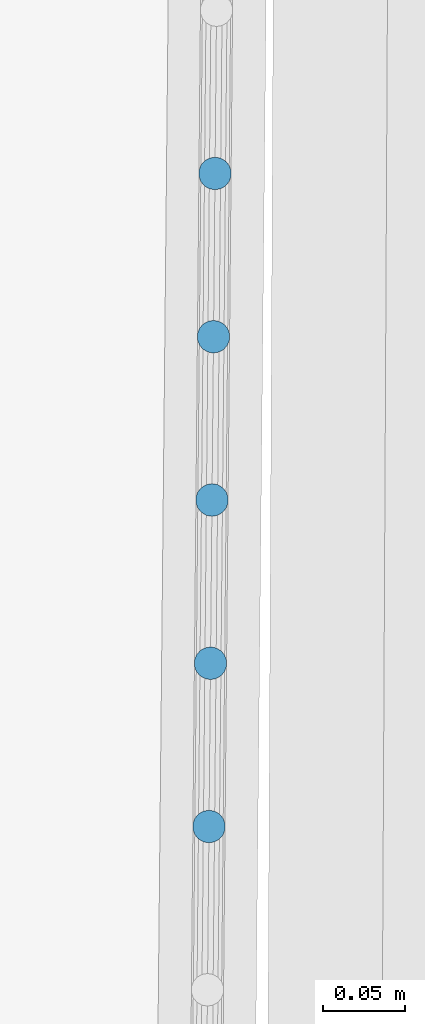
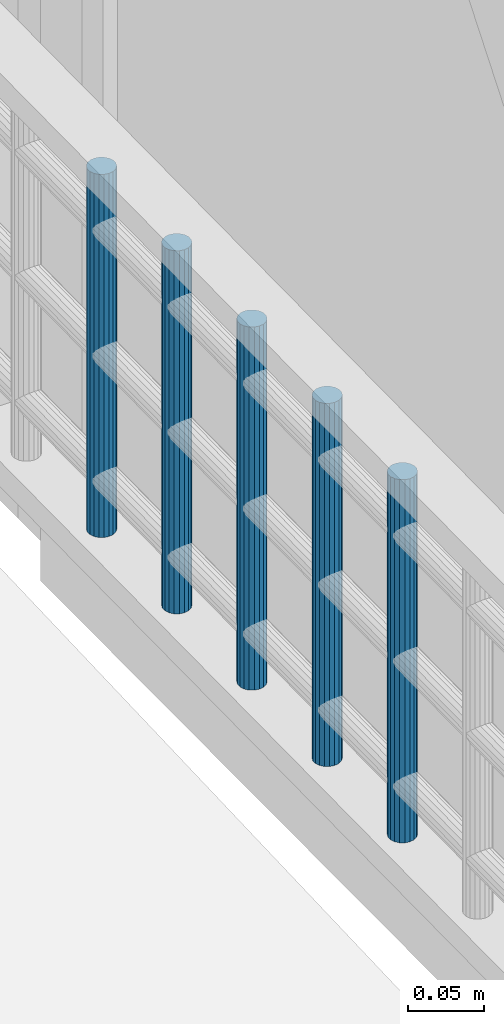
# One storey, part 34 of 97: 5 members, 1 element without a shape of its own.
"""IFC2X3 building model written with IfcOpenShell, lengths in centimetres."""

from ifc_helpers import new_model, entity, si_unit, converted_unit, direction, frame, origin, origin_with_axes, place, context, subcontext, project, spatial, faceted_brep, material, type_object, element, aggregate, save


model = new_model("IFC2X3")

# Units and contexts
model_context = context("Model", 3, precision=0.0001, world=origin(), true_north=direction((0.225632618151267, 0.974212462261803, 0.0)))
body_context = subcontext(model_context, "Body", "Model", "MODEL_VIEW")
ifc_project = project(units=[si_unit("LENGTHUNIT", "METRE", prefix="CENTI"), si_unit("AREAUNIT", "SQUARE_METRE", prefix="CENTI"), si_unit("VOLUMEUNIT", "CUBIC_METRE", prefix="CENTI"), converted_unit("PLANEANGLEUNIT", "DEGREE", entity("IfcRatioMeasure", 0.0174532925), si_unit("PLANEANGLEUNIT", "RADIAN"), dimensions=[0, 0, 0, 0, 0, 0, 0])], contexts=[model_context])

# Site, building, storey
site_placement = place(None, origin_with_axes())
site = spatial("IfcSite", under=ifc_project, at=site_placement, Name="Default Site", CompositionType="ELEMENT")
building_placement = place(site_placement, origin_with_axes())
building = spatial("IfcBuilding", under=site, at=building_placement, Name="Default Building", CompositionType="ELEMENT")
storey_placement = place(building_placement, origin_with_axes())
storey = spatial("IfcBuildingStorey", under=building, at=storey_placement, Name="Rez-de-chaussée", CompositionType="ELEMENT", Elevation=0.0)

# Assembly, members
building_element_proxy_type = type_object("IfcBuildingElementProxyType", Name="Type Object", PredefinedType="NOTDEFINED")
assembly_placement = place(storey_placement, frame((1065.74726462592, -36.1039081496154, 11.9999999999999), z_axis=(0.0, 0.0, 1.0), x_axis=(-0.00922380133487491, -0.999957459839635, 0.0)))
assembly = element("IfcElementAssembly", 1, at=assembly_placement, inside=storey, type_object=building_element_proxy_type, Name="Panneau 1702030", ObjectType="Precast panel", PredefinedType="USERDEFINED")
ifc_material = material(Name="Aluminium satiné")
member_1_placement = place(assembly_placement, frame((18.4396922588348, 0.342020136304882, 31.0000002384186), z_axis=(0.0, 0.0, 1.0), x_axis=(0.499998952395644, -0.866026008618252, 0.0)))
member_1 = element("IfcMember", 2, at=member_1_placement, material=ifc_material, Name="4294967110", context=body_context, shape_type="Brep", body=[
    faceted_brep([(-1.41553435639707e-13, -4.71844785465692e-14, -5.55111512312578e-15), (-0.347296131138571, -3.60822483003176e-14, -5.55111512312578e-15), (-0.673647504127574, -0.118782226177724, -5.55111512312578e-15), (-0.939691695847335, -0.342020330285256, -5.55111512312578e-15), (-1.11333977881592, -0.642788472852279, -5.55111512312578e-15), (-1.17364672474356, -0.984808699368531, -5.55111512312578e-15), (-1.11333938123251, -1.32682953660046, -5.55111512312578e-15), (-0.939690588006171, -1.62759638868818, -5.55111512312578e-15), (-0.673645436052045, -1.85083308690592, -5.55111512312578e-15), (-0.34729392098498, -1.96961580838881, -5.55111512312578e-15), (2.21015345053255e-06, -1.96961580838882, -5.55111512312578e-15), (0.326354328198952, -1.85083229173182, -5.55111512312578e-15), (0.592398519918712, -1.62759418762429, -5.55111512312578e-15), (0.766046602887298, -1.32682604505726, -5.55111512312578e-15), (0.826353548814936, -0.98480581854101, -5.55111512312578e-15), (0.766045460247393, -0.642786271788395, -5.55111512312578e-15), (0.59239666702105, -0.342019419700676, -5.55111512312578e-15), (0.326352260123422, -0.118781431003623, -5.55111512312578e-15), (0.326352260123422, -0.118781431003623, -29.0000002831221), (0.59239666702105, -0.342019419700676, -29.0000002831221), (0.766045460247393, -0.642786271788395, -29.0000002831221), (0.826353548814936, -0.98480581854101, -29.0000002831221), (0.766046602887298, -1.32682604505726, -29.0000002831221), (0.592398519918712, -1.62759418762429, -29.0000002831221), (0.326354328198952, -1.85083229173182, -29.0000002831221), (2.21015345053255e-06, -1.96961580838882, -29.0000002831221), (-0.34729392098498, -1.96961580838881, -29.0000002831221), (-0.673645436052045, -1.85083308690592, -29.0000002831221), (-0.939690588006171, -1.62759638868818, -29.0000002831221), (-1.11333938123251, -1.32682953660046, -29.0000002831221), (-1.17364672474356, -0.984808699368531, -29.0000002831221), (-1.11333977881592, -0.642788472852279, -29.0000002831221), (-0.939691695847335, -0.342020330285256, -29.0000002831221), (-0.673647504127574, -0.118782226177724, -29.0000002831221), (-0.347296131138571, -3.60822483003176e-14, -29.0000002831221), (-1.41553435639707e-13, -4.71844785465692e-14, -29.0000002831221), (0.592397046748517, -0.342018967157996, -5.55111517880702e-15), (0.592397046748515, -0.342018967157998, -29.0000002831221), (0.32635226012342, -0.118781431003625, -29.0000002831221), (0.766045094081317, -0.642786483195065, -5.55111508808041e-15), (0.766045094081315, -0.642786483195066, -29.0000002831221), (0.592396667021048, -0.342019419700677, -29.0000002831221), (0.826353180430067, -0.98480588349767, -5.55111510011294e-15), (0.826353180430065, -0.98480588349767, -29.0000002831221), (0.766045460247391, -0.642786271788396, -29.0000002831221), (0.7660465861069, -1.32682604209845, -5.55111512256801e-15), (0.766046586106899, -1.32682604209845, -29.0000002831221), (0.826353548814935, -0.984805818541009, -29.0000002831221), (0.326354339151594, -1.85083230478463, -5.55111512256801e-15), (0.326354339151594, -1.85083230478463, -29.0000002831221), (2.01049500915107e-06, -1.96961525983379, -5.55111512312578e-15), (2.01049500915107e-06, -1.96961525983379, -29.0000002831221), (-0.347293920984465, -1.96961623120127, -5.55111508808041e-15), (-0.347293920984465, -1.96961623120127, -29.0000002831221), (-0.673645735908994, -1.85083391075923, -5.55111504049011e-15), (-0.673645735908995, -1.85083391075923, -29.0000002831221), (-0.347293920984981, -1.96961580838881, -29.0000002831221), (-0.939690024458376, -1.62759571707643, -5.55111520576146e-15), (-0.939690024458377, -1.62759571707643, -29.0000002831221), (-0.673645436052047, -1.85083308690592, -29.0000002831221), (-1.11333901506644, -1.32682932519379, -5.55111512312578e-15), (-1.11333901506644, -1.32682932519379, -29.0000002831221), (-1.17364729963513, -0.984808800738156, -5.55111508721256e-15), (-1.17364729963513, -0.984808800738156, -29.0000002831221), (-1.11333976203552, -0.642788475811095, -5.55111512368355e-15), (-1.11333976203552, -0.642788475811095, -29.0000002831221), (-1.17364672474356, -0.98480869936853, -29.0000002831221), (-0.673647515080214, -0.118782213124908, -5.55111512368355e-15), (-0.673647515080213, -0.118782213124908, -29.0000002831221), (-0.939691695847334, -0.342020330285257, -29.0000002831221), (-0.347296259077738, 3.51508639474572e-07, -5.55111514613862e-15), (-0.347296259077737, 3.51508637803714e-07, -29.0000002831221), (-0.673647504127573, -0.118782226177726, -29.0000002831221), (-6.56302531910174e-13, 4.22812410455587e-07, -5.55111515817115e-15), (-6.56302528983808e-13, 4.22812408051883e-07, -29.0000002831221), (-0.347296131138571, -3.84859516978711e-14, -29.0000002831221), (0.326352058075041, -0.118781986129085, -5.55111506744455e-15), (0.32635205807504, -0.118781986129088, -29.0000002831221), (-1.42488307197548e-13, -4.97530267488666e-14, -29.0000002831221)], [[[0, 1, 2, 3, 4, 5, 6, 7, 8, 9, 10, 11, 12, 13, 14, 15, 16, 17]], [[18, 19, 20, 21, 22, 23, 24, 25, 26, 27, 28, 29, 30, 31, 32, 33, 34, 35]], [[17, 36, 37, 38]], [[16, 39, 40, 41]], [[15, 42, 43, 44]], [[14, 45, 46, 47]], [[13, 12, 23, 22]], [[12, 48, 49, 23]], [[11, 50, 51, 24]], [[10, 52, 53, 25]], [[9, 54, 55, 56]], [[8, 57, 58, 59]], [[7, 60, 61, 28]], [[6, 62, 63, 29]], [[5, 64, 65, 66]], [[4, 3, 32, 31]], [[3, 67, 68, 69]], [[2, 70, 71, 72]], [[1, 73, 74, 75]], [[0, 76, 77, 78]]]),
])
member_2_placement = place(assembly_placement, frame((28.4396916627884, 0.342020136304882, 31.0000002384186), z_axis=(0.0, 0.0, 1.0), x_axis=(0.499995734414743, -0.866027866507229, 0.0)))
member_2 = element("IfcMember", 3, at=member_2_placement, material=ifc_material, Name="4294967109", context=body_context, shape_type="Brep", body=[
    faceted_brep([(-2.85882428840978e-13, 7.49400541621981e-14, 5.55111512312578e-15), (-0.347295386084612, 2.77555756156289e-15, 5.55111512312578e-15), (-0.673647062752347, -0.118784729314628, 5.55111512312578e-15), (-0.93969117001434, -0.342025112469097, 5.55111512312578e-15), (-1.11333739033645, -0.642792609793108, 5.55111512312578e-15), (-1.173642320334, -0.984811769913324, 5.55111512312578e-15), (-1.11333370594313, -1.32683238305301, 5.55111512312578e-15), (-0.939684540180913, -1.62759988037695, 5.55111512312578e-15), (-0.673639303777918, -1.85083688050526, 5.55111512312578e-15), (-0.347286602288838, -1.96961709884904, 5.55111512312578e-15), (1.02738988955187e-05, -1.9696145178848, 5.55111512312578e-15), (0.326361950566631, -1.85082978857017, 5.55111512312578e-15), (0.592404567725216, -1.62759198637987, 5.55111512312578e-15), (0.766050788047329, -1.32682448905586, 5.55111512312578e-15), (0.826357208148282, -0.984802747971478, 5.55111512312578e-15), (0.766048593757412, -0.642782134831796, 5.55111512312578e-15), (0.592397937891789, -0.342017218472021, 5.55111512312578e-15), (0.326352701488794, -0.118780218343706, 5.55111512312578e-15), (0.326352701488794, -0.118780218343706, -29.0000002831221), (0.592397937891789, -0.342017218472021, -29.0000002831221), (0.766048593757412, -0.642782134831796, -29.0000002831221), (0.826357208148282, -0.984802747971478, -29.0000002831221), (0.766050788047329, -1.32682448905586, -29.0000002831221), (0.592404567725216, -1.62759198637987, -29.0000002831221), (0.326361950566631, -1.85082978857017, -29.0000002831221), (1.02738988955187e-05, -1.9696145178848, -29.0000002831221), (-0.347286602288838, -1.96961709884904, -29.0000002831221), (-0.673639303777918, -1.85083688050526, -29.0000002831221), (-0.939684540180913, -1.62759988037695, -29.0000002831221), (-1.11333370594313, -1.32683238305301, -29.0000002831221), (-1.173642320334, -0.984811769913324, -29.0000002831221), (-1.11333739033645, -0.642792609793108, -29.0000002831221), (-0.93969117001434, -0.342025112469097, -29.0000002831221), (-0.673647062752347, -0.118784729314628, -29.0000002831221), (-0.347295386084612, 2.77555756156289e-15, -29.0000002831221), (-2.85882428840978e-13, 7.49400541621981e-14, -29.0000002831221), (0.592398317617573, -0.342016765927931, 5.55111512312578e-15), (0.592398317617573, -0.342016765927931, -29.0000002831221), (0.766047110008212, -0.642782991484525, 5.55111512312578e-15), (0.766047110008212, -0.642782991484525, -29.0000002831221), (0.826357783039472, -0.984802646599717, 5.55111512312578e-15), (0.826357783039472, -0.984802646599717, -29.0000002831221), (0.766051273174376, -1.32682457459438, 5.55111512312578e-15), (0.766051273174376, -1.32682457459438, -29.0000002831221), (0.326362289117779, -1.85083019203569, 5.55111512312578e-15), (0.326362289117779, -1.85083019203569, -29.0000002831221), (1.00742384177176e-05, -1.96961396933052, 5.55111512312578e-15), (1.00742384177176e-05, -1.96961396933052, -29.0000002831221), (-0.347286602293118, -1.96961623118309, 5.55111512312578e-15), (-0.347286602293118, -1.96961623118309, -29.0000002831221), (-0.6736391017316, -1.85083632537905, 5.55111512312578e-15), (-0.6736391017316, -1.85083632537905, -29.0000002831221), (-0.939684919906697, -1.62760033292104, 5.55111512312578e-15), (-0.939684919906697, -1.62760033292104, -29.0000002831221), (-1.11333445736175, -1.32683281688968, 5.55111512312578e-15), (-1.11333445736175, -1.32683281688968, -29.0000002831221), (-1.17364289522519, -0.984811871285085, 5.55111512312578e-15), (-1.17364289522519, -0.984811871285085, -29.0000002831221), (-1.11333687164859, -0.642792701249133, 5.55111512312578e-15), (-1.11333687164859, -0.642792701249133, -29.0000002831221), (-0.93969117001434, -0.342025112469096, 5.55111512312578e-15), (-0.93969117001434, -0.342025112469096, -29.0000002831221), (-0.673646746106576, -0.118785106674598, 5.55111512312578e-15), (-0.673646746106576, -0.118785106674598, -29.0000002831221), (-0.347295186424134, -5.48554283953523e-07, 5.55111512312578e-15), (-0.347295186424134, -5.48554283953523e-07, -29.0000002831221), (-8.73795471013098e-12, 1.71329093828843e-06, 5.55111512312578e-15), (-8.73795471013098e-12, 1.71329093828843e-06, -29.0000002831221), (0.326352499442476, -0.118780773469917, 5.55111512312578e-15), (0.326352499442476, -0.118780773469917, -29.0000002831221)], [[[0, 1, 2, 3, 4, 5, 6, 7, 8, 9, 10, 11, 12, 13, 14, 15, 16, 17]], [[18, 19, 20, 21, 22, 23, 24, 25, 26, 27, 28, 29, 30, 31, 32, 33, 34, 35]], [[17, 36, 37, 18]], [[16, 38, 39, 19]], [[15, 40, 41, 20]], [[14, 42, 43, 21]], [[13, 12, 23, 22]], [[12, 44, 45, 23]], [[11, 46, 47, 24]], [[10, 48, 49, 25]], [[9, 50, 51, 26]], [[8, 52, 53, 27]], [[7, 54, 55, 28]], [[6, 56, 57, 29]], [[5, 58, 59, 30]], [[4, 60, 61, 31]], [[3, 62, 63, 32]], [[2, 64, 65, 33]], [[1, 66, 67, 34]], [[0, 68, 69, 35]]]),
])
member_3_placement = place(assembly_placement, frame((38.4396940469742, 0.342020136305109, 31.0000002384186), z_axis=(0.0, 0.0, 1.0), x_axis=(0.500002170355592, -0.866024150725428, 0.0)))
member_3 = element("IfcMember", 4, at=member_3_placement, material=ifc_material, Name="4294967108", context=body_context, shape_type="Brep", body=[
    faceted_brep([(2.22044604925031e-13, -6.66133814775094e-14, -5.55111512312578e-15), (-0.347296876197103, -7.21644966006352e-14, -5.55111512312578e-15), (-0.673649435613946, -0.118782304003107, -5.55111512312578e-15), (-0.939693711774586, -0.342018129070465, -5.55111512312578e-15), (-1.11334365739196, -0.642786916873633, -5.55111512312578e-15), (-1.17365112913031, -0.984805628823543, -5.55111512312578e-15), (-1.11334505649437, -1.32682669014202, -5.55111512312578e-15), (-0.939698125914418, -1.62759547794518, -5.55111512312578e-15), (-0.673653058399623, -1.85083187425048, -5.55111512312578e-15), (-0.347302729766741, -1.96961709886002, -5.55111512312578e-15), (-5.8535694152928e-06, -1.96961709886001, -5.55111512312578e-15), (0.326346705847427, -1.85083479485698, -5.55111512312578e-15), (0.592390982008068, -1.62759896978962, -5.55111512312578e-15), (0.766040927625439, -1.32683018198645, -5.55111512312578e-15), (0.826348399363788, -0.98481147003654, -5.55111512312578e-15), (0.766042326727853, -0.642790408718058, -5.55111512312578e-15), (0.592395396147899, -0.342021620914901, -5.55111512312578e-15), (0.326350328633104, -0.118785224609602, -5.55111512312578e-15), (0.326350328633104, -0.118785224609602, -29.0000002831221), (0.592395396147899, -0.342021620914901, -29.0000002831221), (0.766042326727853, -0.642790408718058, -29.0000002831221), (0.826348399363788, -0.98481147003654, -29.0000002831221), (0.766040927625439, -1.32683018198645, -29.0000002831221), (0.592390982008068, -1.62759896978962, -29.0000002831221), (0.326346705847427, -1.85083479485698, -29.0000002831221), (-5.8535694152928e-06, -1.96961709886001, -29.0000002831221), (-0.347302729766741, -1.96961709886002, -29.0000002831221), (-0.673653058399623, -1.85083187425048, -29.0000002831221), (-0.939698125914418, -1.62759547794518, -29.0000002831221), (-1.11334505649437, -1.32682669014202, -29.0000002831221), (-1.17365112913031, -0.984805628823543, -29.0000002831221), (-1.11334365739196, -0.642786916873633, -29.0000002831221), (-0.939693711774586, -0.342018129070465, -29.0000002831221), (-0.673649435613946, -0.118782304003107, -29.0000002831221), (-0.347296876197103, -7.21644966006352e-14, -29.0000002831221), (2.22044604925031e-13, -6.66133814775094e-14, -29.0000002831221), (0.592393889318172, -0.342023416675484, -5.55111512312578e-15), (0.592393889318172, -0.342023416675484, -29.0000002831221), (0.766043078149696, -0.642789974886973, -5.55111512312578e-15), (0.766043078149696, -0.642789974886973, -29.0000002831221), (0.826348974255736, -0.98481136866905, -5.55111512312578e-15), (0.826348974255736, -0.98481136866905, -29.0000002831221), (0.766040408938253, -1.32683009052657, -5.55111512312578e-15), (0.766040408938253, -1.32683009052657, -29.0000002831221), (0.592390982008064, -1.62759896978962, -5.55111512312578e-15), (0.592390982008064, -1.62759896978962, -29.0000002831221), (0.32634704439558, -1.85083519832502, -5.55111512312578e-15), (0.32634704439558, -1.85083519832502, -29.0000002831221), (-6.05322581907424e-06, -1.96961655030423, -5.55111512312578e-15), (-6.05322581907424e-06, -1.96961655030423, -29.0000002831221), (-0.347302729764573, -1.96961623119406, -5.55111512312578e-15), (-0.347302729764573, -1.96961623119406, -29.0000002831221), (-0.673653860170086, -1.85083407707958, -5.55111512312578e-15), (-0.673653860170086, -1.85083407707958, -29.0000002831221), (-0.93969661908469, -1.6275936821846, -5.55111512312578e-15), (-0.93969661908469, -1.6275936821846, -29.0000002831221), (-1.11334580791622, -1.32682712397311, -5.55111512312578e-15), (-1.11334580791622, -1.32682712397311, -29.0000002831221), (-1.17365170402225, -0.984805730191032, -5.55111512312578e-15), (-1.17365170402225, -0.984805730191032, -29.0000002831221), (-1.11334313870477, -0.642787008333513, -5.55111512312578e-15), (-1.11334313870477, -0.642787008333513, -29.0000002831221), (-0.939693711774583, -0.342018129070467, -5.55111512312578e-15), (-0.939693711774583, -0.342018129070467, -29.0000002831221), (-0.673649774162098, -0.118781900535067, -5.55111512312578e-15), (-0.673649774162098, -0.118781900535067, -29.0000002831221), (-0.3472966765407, -5.48555849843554e-07, -5.55111512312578e-15), (-0.3472966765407, -5.48555849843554e-07, -29.0000002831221), (-1.9456806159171e-12, -8.6766601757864e-07, -5.55111512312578e-15), (-1.9456806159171e-12, -8.6766601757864e-07, -29.0000002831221), (0.326351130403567, -0.118783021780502, -5.55111512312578e-15), (0.326351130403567, -0.118783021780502, -29.0000002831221)], [[[0, 1, 2, 3, 4, 5, 6, 7, 8, 9, 10, 11, 12, 13, 14, 15, 16, 17]], [[18, 19, 20, 21, 22, 23, 24, 25, 26, 27, 28, 29, 30, 31, 32, 33, 34, 35]], [[17, 36, 37, 18]], [[16, 38, 39, 19]], [[15, 40, 41, 20]], [[14, 42, 43, 21]], [[13, 44, 45, 22]], [[12, 46, 47, 23]], [[11, 48, 49, 24]], [[10, 50, 51, 25]], [[9, 52, 53, 26]], [[8, 54, 55, 27]], [[7, 56, 57, 28]], [[6, 58, 59, 29]], [[5, 60, 61, 30]], [[4, 62, 63, 31]], [[3, 64, 65, 32]], [[2, 66, 67, 33]], [[1, 68, 69, 34]], [[0, 70, 71, 35]]]),
])
member_4_placement = place(assembly_placement, frame((48.4396934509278, 0.342020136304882, 31.0000002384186), z_axis=(0.0, 0.0, 1.0), x_axis=(0.500002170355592, -0.866024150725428, 0.0)))
member_4 = element("IfcMember", 5, at=member_4_placement, material=ifc_material, Name="4294967107", context=body_context, shape_type="Brep", body=[
    faceted_brep([(3.3584246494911e-13, -1.16573417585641e-13, -5.55111512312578e-15), (-0.34729687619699, -1.27675647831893e-13, -5.55111512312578e-15), (-0.67364943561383, -0.118782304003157, -5.55111512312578e-15), (-0.93969371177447, -0.34201812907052, -5.55111512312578e-15), (-1.11334216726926, -0.642784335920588, -5.55111512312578e-15), (-1.17365112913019, -0.984805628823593, -5.55111512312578e-15), (-1.11334505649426, -1.32682669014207, -5.55111512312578e-15), (-0.939696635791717, -1.62759289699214, -5.55111512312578e-15), (-0.673653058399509, -1.85083187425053, -5.55111512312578e-15), (-0.347301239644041, -1.96961451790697, -5.55111512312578e-15), (-5.85356930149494e-06, -1.96961709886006, -5.55111512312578e-15), (0.326346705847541, -1.85083479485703, -5.55111512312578e-15), (0.592392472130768, -1.62759638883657, -5.55111512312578e-15), (0.766040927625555, -1.3268301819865, -5.55111512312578e-15), (0.826348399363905, -0.98481147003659, -5.55111512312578e-15), (0.766042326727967, -0.642790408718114, -5.55111512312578e-15), (0.592395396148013, -0.342021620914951, -5.55111512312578e-15), (0.326351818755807, -0.118782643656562, -5.55111512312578e-15), (0.326351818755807, -0.118782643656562, -29.0000002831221), (0.592395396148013, -0.342021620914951, -29.0000002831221), (0.766042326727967, -0.642790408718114, -29.0000002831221), (0.826348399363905, -0.98481147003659, -29.0000002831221), (0.766040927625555, -1.3268301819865, -29.0000002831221), (0.592392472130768, -1.62759638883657, -29.0000002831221), (0.326346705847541, -1.85083479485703, -29.0000002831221), (-5.85356930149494e-06, -1.96961709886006, -29.0000002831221), (-0.347301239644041, -1.96961451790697, -29.0000002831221), (-0.673653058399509, -1.85083187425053, -29.0000002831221), (-0.939696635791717, -1.62759289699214, -29.0000002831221), (-1.11334505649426, -1.32682669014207, -29.0000002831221), (-1.17365112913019, -0.984805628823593, -29.0000002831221), (-1.11334216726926, -0.642784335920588, -29.0000002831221), (-0.93969371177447, -0.34201812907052, -29.0000002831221), (-0.67364943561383, -0.118782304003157, -29.0000002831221), (-0.34729687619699, -1.27675647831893e-13, -29.0000002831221), (3.3584246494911e-13, -1.16573417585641e-13, -29.0000002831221), (0.592395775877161, -0.342021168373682, -5.55111512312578e-15), (0.592395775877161, -0.342021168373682, -29.0000002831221), (0.766043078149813, -0.642789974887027, -5.55111512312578e-15), (0.766043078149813, -0.642789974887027, -29.0000002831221), (0.826348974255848, -0.984811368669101, -5.55111512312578e-15), (0.826348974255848, -0.984811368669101, -29.0000002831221), (0.766040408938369, -1.32683009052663, -5.55111512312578e-15), (0.766040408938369, -1.32683009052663, -29.0000002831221), (0.59239247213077, -1.62759638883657, -5.55111512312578e-15), (0.59239247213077, -1.62759638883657, -29.0000002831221), (0.326346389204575, -1.8508344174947, -5.55111512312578e-15), (0.326346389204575, -1.8508344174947, -29.0000002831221), (-6.05322570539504e-06, -1.96961655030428, -5.55111512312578e-15), (-6.05322570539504e-06, -1.96961655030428, -29.0000002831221), (-0.347301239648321, -1.96961623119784, -5.55111512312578e-15), (-0.347301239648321, -1.96961623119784, -29.0000002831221), (-0.673652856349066, -1.85083131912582, -5.55111512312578e-15), (-0.673652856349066, -1.85083131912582, -29.0000002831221), (-0.939697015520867, -1.62759334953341, -5.55111512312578e-15), (-0.939697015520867, -1.62759334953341, -29.0000002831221), (-1.11334357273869, -1.32682583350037, -5.55111512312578e-15), (-1.11334357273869, -1.32682583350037, -29.0000002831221), (-1.17365170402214, -0.984805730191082, -5.55111512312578e-15), (-1.17365170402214, -0.984805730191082, -29.0000002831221), (-1.11334265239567, -0.642784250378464, -5.55111512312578e-15), (-1.11334265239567, -0.642784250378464, -29.0000002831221), (-0.939693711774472, -0.342018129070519, -5.55111512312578e-15), (-0.939693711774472, -0.342018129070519, -29.0000002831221), (-0.673649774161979, -0.11878190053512, -5.55111512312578e-15), (-0.673649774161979, -0.11878190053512, -29.0000002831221), (-0.347296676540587, -5.48555901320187e-07, -5.55111512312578e-15), (-0.347296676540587, -5.48555901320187e-07, -29.0000002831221), (-1.8318827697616e-12, -8.67666073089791e-07, -5.55111512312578e-15), (-1.8318827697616e-12, -8.67666073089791e-07, -29.0000002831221), (0.326351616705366, -0.118783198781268, -5.55111512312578e-15), (0.326351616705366, -0.118783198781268, -29.0000002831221)], [[[0, 1, 2, 3, 4, 5, 6, 7, 8, 9, 10, 11, 12, 13, 14, 15, 16, 17]], [[18, 19, 20, 21, 22, 23, 24, 25, 26, 27, 28, 29, 30, 31, 32, 33, 34, 35]], [[17, 36, 37, 18]], [[16, 38, 39, 19]], [[15, 40, 41, 20]], [[14, 42, 43, 21]], [[13, 44, 45, 22]], [[12, 46, 47, 23]], [[11, 48, 49, 24]], [[10, 50, 51, 25]], [[9, 52, 53, 26]], [[8, 54, 55, 27]], [[7, 56, 57, 28]], [[6, 58, 59, 29]], [[5, 60, 61, 30]], [[4, 62, 63, 31]], [[3, 64, 65, 32]], [[2, 66, 67, 33]], [[1, 68, 69, 34]], [[0, 70, 71, 35]]]),
])
member_5_placement = place(assembly_placement, frame((58.4396898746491, 0.342020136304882, 31.0000002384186), z_axis=(0.0, 0.0, 1.0), x_axis=(0.499995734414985, -0.86602786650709, 0.0)))
member_5 = element("IfcMember", 6, at=member_5_placement, material=ifc_material, Name="4294967106", context=body_context, shape_type="Brep", body=[
    faceted_brep([(1.11022302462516e-13, 4.44089209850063e-14, 5.55111512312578e-15), (-0.347295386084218, 6.66133814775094e-14, 5.55111512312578e-15), (-0.673647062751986, -0.118784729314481, 5.55111512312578e-15), (-0.939688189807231, -0.34201995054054, 5.55111512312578e-15), (-1.11333590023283, -0.642790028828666, 5.55111512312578e-15), (-1.17364232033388, -0.98481176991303, 5.55111512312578e-15), (-1.1133337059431, -1.32683238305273, 5.55111512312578e-15), (-0.939683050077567, -1.62759729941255, 5.55111512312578e-15), (-0.673637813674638, -1.85083429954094, 5.55111512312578e-15), (-0.347285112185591, -1.96961451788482, 5.55111512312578e-15), (1.02738987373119e-05, -1.96961451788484, 5.55111512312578e-15), (0.326361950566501, -1.8508297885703, 5.55111512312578e-15), (0.592406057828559, -1.62758940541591, 5.55111512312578e-15), (0.76605376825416, -1.32681932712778, 5.55111512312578e-15), (0.826357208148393, -0.984802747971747, 5.55111512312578e-15), (0.766048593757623, -0.642782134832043, 5.55111512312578e-15), (0.592397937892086, -0.342017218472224, 5.55111512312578e-15), (0.326352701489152, -0.118780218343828, 5.55111512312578e-15), (0.326352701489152, -0.118780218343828, -29.0000002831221), (0.592397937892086, -0.342017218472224, -29.0000002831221), (0.766048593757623, -0.642782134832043, -29.0000002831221), (0.826357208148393, -0.984802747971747, -29.0000002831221), (0.76605376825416, -1.32681932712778, -29.0000002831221), (0.592406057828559, -1.62758940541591, -29.0000002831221), (0.326361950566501, -1.8508297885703, -29.0000002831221), (1.02738987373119e-05, -1.96961451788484, -29.0000002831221), (-0.347285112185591, -1.96961451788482, -29.0000002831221), (-0.673637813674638, -1.85083429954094, -29.0000002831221), (-0.939683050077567, -1.62759729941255, -29.0000002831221), (-1.1133337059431, -1.32683238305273, -29.0000002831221), (-1.17364232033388, -0.98481176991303, -29.0000002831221), (-1.11333590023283, -0.642790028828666, -29.0000002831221), (-0.939688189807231, -0.34201995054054, -29.0000002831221), (-0.673647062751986, -0.118784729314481, -29.0000002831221), (-0.347295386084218, 6.66133814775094e-14, -29.0000002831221), (1.11022302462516e-13, 4.44089209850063e-14, -29.0000002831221), (0.592398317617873, -0.342016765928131, 5.55111512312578e-15), (0.592398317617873, -0.342016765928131, -29.0000002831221), (0.766047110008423, -0.642782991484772, 5.55111512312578e-15), (0.766047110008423, -0.642782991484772, -29.0000002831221), (0.826357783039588, -0.984802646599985, 5.55111512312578e-15), (0.826357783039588, -0.984802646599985, -29.0000002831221), (0.766052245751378, -1.32681905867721, 5.55111512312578e-15), (0.766052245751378, -1.32681905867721, -29.0000002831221), (0.592406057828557, -1.62758940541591, 5.55111512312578e-15), (0.592406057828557, -1.62758940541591, -29.0000002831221), (0.326361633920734, -1.85082941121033, 5.55111512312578e-15), (0.326361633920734, -1.85082941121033, -29.0000002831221), (1.00742382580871e-05, -1.96961396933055, 5.55111512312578e-15), (1.00742382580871e-05, -1.96961396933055, -29.0000002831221), (-0.347285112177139, -1.96961623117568, 5.55111512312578e-15), (-0.347285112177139, -1.96961623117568, -29.0000002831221), (-0.67363761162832, -1.85083374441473, 5.55111512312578e-15), (-0.67363761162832, -1.85083374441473, -29.0000002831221), (-0.939683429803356, -1.62759775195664, 5.55111512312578e-15), (-0.939683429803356, -1.62759775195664, -29.0000002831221), (-1.1133322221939, -1.3268315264, 5.55111512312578e-15), (-1.1133322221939, -1.3268315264, -29.0000002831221), (-1.17364289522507, -0.984811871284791, 5.55111512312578e-15), (-1.17364289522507, -0.984811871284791, -29.0000002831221), (-1.11333638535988, -0.642789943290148, 5.55111512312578e-15), (-1.11333638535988, -0.642789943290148, -29.0000002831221), (-0.93968818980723, -0.34201995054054, 5.55111512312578e-15), (-0.93968818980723, -0.34201995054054, -29.0000002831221), (-0.673648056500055, -0.118783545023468, 5.55111512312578e-15), (-0.673648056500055, -0.118783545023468, -29.0000002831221), (-0.347295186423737, -5.48554227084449e-07, 5.55111512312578e-15), (-0.347295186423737, -5.48554227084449e-07, -29.0000002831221), (-8.34104948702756e-12, 1.71329090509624e-06, 5.55111512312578e-15), (-8.34104948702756e-12, 1.71329090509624e-06, -29.0000002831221), (0.326352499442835, -0.118780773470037, 5.55111512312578e-15), (0.326352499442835, -0.118780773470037, -29.0000002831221)], [[[0, 1, 2, 3, 4, 5, 6, 7, 8, 9, 10, 11, 12, 13, 14, 15, 16, 17]], [[18, 19, 20, 21, 22, 23, 24, 25, 26, 27, 28, 29, 30, 31, 32, 33, 34, 35]], [[17, 36, 37, 18]], [[16, 38, 39, 19]], [[15, 40, 41, 20]], [[14, 42, 43, 21]], [[13, 44, 45, 22]], [[12, 46, 47, 23]], [[11, 48, 49, 24]], [[10, 50, 51, 25]], [[9, 52, 53, 26]], [[8, 54, 55, 27]], [[7, 56, 57, 28]], [[6, 58, 59, 29]], [[5, 60, 61, 30]], [[4, 62, 63, 31]], [[3, 64, 65, 32]], [[2, 66, 67, 33]], [[1, 68, 69, 34]], [[0, 70, 71, 35]]]),
])
aggregate(assembly, [member_1, member_2, member_3, member_4, member_5])

save(model, "model.ifc")
